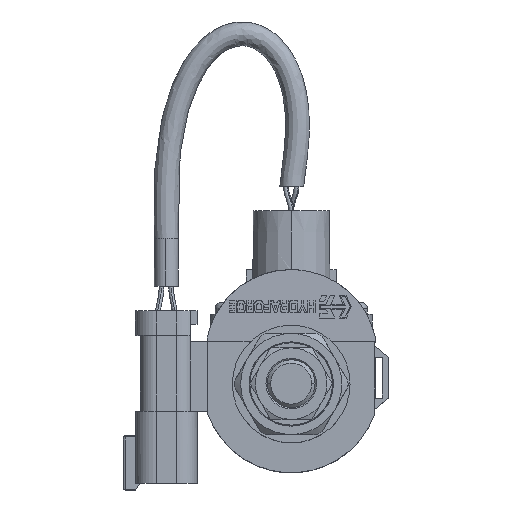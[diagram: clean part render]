
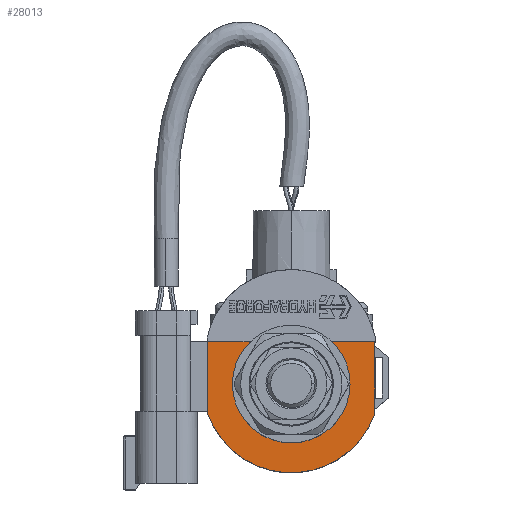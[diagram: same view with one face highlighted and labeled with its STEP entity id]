
A CAD part, top view. The second image highlights one B-rep face of the part: STEP entity #28013.
In plain terms, the highlighted planar face has unit normal (0, 0, 1).
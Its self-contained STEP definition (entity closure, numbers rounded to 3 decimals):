
#8327=CARTESIAN_POINT('',(0.,0.,24.384));
#8328=DIRECTION('',(0.,0.,1.));
#8329=DIRECTION('',(-0.803,0.596,0.));
#8330=AXIS2_PLACEMENT_3D('',#8327,#8328,#8329);
#8332=CARTESIAN_POINT('',(0.,0.,24.384));
#8333=DIRECTION('',(0.,0.,1.));
#8334=DIRECTION('',(-1.,0.,0.));
#8335=AXIS2_PLACEMENT_3D('',#8332,#8333,#8334);
#8337=CARTESIAN_POINT('',(0.,0.,24.384));
#8338=DIRECTION('',(0.,0.,1.));
#8339=DIRECTION('',(1.,0.,0.));
#8340=AXIS2_PLACEMENT_3D('',#8337,#8338,#8339);
#8342=DIRECTION('',(0.,1.,0.));
#8343=VECTOR('',#8342,2.921);
#8344=CARTESIAN_POINT('',(11.214,8.331,24.384));
#8345=LINE('',#8344,#8343);
#8346=DIRECTION('',(1.,0.,0.));
#8347=VECTOR('',#8346,11.062);
#8348=CARTESIAN_POINT('',(11.214,11.252,24.384));
#8349=LINE('',#8348,#8347);
#8350=DIRECTION('',(0.,-1.,0.));
#8351=VECTOR('',#8350,18.923);
#8352=CARTESIAN_POINT('',(22.276,11.252,24.384));
#8353=LINE('',#8352,#8351);
#8354=CARTESIAN_POINT('',(0.,0.,24.384));
#8355=DIRECTION('',(0.,0.,-1.));
#8356=DIRECTION('',(0.946,-0.326,0.));
#8357=AXIS2_PLACEMENT_3D('',#8354,#8355,#8356);
#8359=DIRECTION('',(0.,1.,0.));
#8360=VECTOR('',#8359,18.923);
#8361=CARTESIAN_POINT('',(-22.276,-7.671,24.384));
#8362=LINE('',#8361,#8360);
#8363=DIRECTION('',(1.,0.,0.));
#8364=VECTOR('',#8363,11.062);
#8365=CARTESIAN_POINT('',(-22.276,11.252,24.384));
#8366=LINE('',#8365,#8364);
#8367=DIRECTION('',(0.,-1.,0.));
#8368=VECTOR('',#8367,2.921);
#8369=CARTESIAN_POINT('',(-11.214,11.252,24.384));
#8370=LINE('',#8369,#8368);
#17556=CARTESIAN_POINT('',(-22.276,11.252,24.384));
#17557=VERTEX_POINT('',#17556);
#17558=CARTESIAN_POINT('',(-22.276,-7.671,24.384));
#17559=VERTEX_POINT('',#17558);
#17570=CARTESIAN_POINT('',(-11.214,8.331,24.384));
#17571=CARTESIAN_POINT('',(-13.97,0.,24.384));
#17572=VERTEX_POINT('',#17570);
#17573=VERTEX_POINT('',#17571);
#17574=CARTESIAN_POINT('',(13.97,0.,24.384));
#17575=VERTEX_POINT('',#17574);
#17576=CARTESIAN_POINT('',(11.214,8.331,24.384));
#17577=VERTEX_POINT('',#17576);
#17578=CARTESIAN_POINT('',(11.214,11.252,24.384));
#17579=VERTEX_POINT('',#17578);
#17580=CARTESIAN_POINT('',(22.276,11.252,24.384));
#17581=VERTEX_POINT('',#17580);
#17582=CARTESIAN_POINT('',(22.276,-7.671,24.384));
#17583=VERTEX_POINT('',#17582);
#17584=CARTESIAN_POINT('',(-11.214,11.252,24.384));
#17585=VERTEX_POINT('',#17584);
#27987=CARTESIAN_POINT('',(0.,11.252,24.384));
#27988=DIRECTION('',(0.,0.,1.));
#27989=DIRECTION('',(0.,1.,0.));
#27990=AXIS2_PLACEMENT_3D('',#27987,#27988,#27989);
#27991=PLANE('',#27990);
#27993=ORIENTED_EDGE('',*,*,#27992,.T.);
#27995=ORIENTED_EDGE('',*,*,#27994,.T.);
#27997=ORIENTED_EDGE('',*,*,#27996,.T.);
#27999=ORIENTED_EDGE('',*,*,#27998,.T.);
#28001=ORIENTED_EDGE('',*,*,#28000,.T.);
#28003=ORIENTED_EDGE('',*,*,#28002,.T.);
#28005=ORIENTED_EDGE('',*,*,#28004,.T.);
#28006=ORIENTED_EDGE('',*,*,#27968,.T.);
#28008=ORIENTED_EDGE('',*,*,#28007,.T.);
#28010=ORIENTED_EDGE('',*,*,#28009,.T.);
#28011=EDGE_LOOP('',(#27993,#27995,#27997,#27999,#28001,#28003,#28005,#28006,
#28008,#28010));
#28012=FACE_OUTER_BOUND('',#28011,.F.);
#28013=ADVANCED_FACE('',(#28012),#27991,.T.);
#8331=CIRCLE('',#8330,13.97);
#8336=CIRCLE('',#8335,13.97);
#8341=CIRCLE('',#8340,13.97);
#8358=CIRCLE('',#8357,23.56);
#27968=EDGE_CURVE('',#17559,#17557,#8362,.T.);
#27992=EDGE_CURVE('',#17572,#17573,#8331,.T.);
#27994=EDGE_CURVE('',#17573,#17575,#8336,.T.);
#27996=EDGE_CURVE('',#17575,#17577,#8341,.T.);
#27998=EDGE_CURVE('',#17577,#17579,#8345,.T.);
#28000=EDGE_CURVE('',#17579,#17581,#8349,.T.);
#28002=EDGE_CURVE('',#17581,#17583,#8353,.T.);
#28004=EDGE_CURVE('',#17583,#17559,#8358,.T.);
#28007=EDGE_CURVE('',#17557,#17585,#8366,.T.);
#28009=EDGE_CURVE('',#17585,#17572,#8370,.T.);
